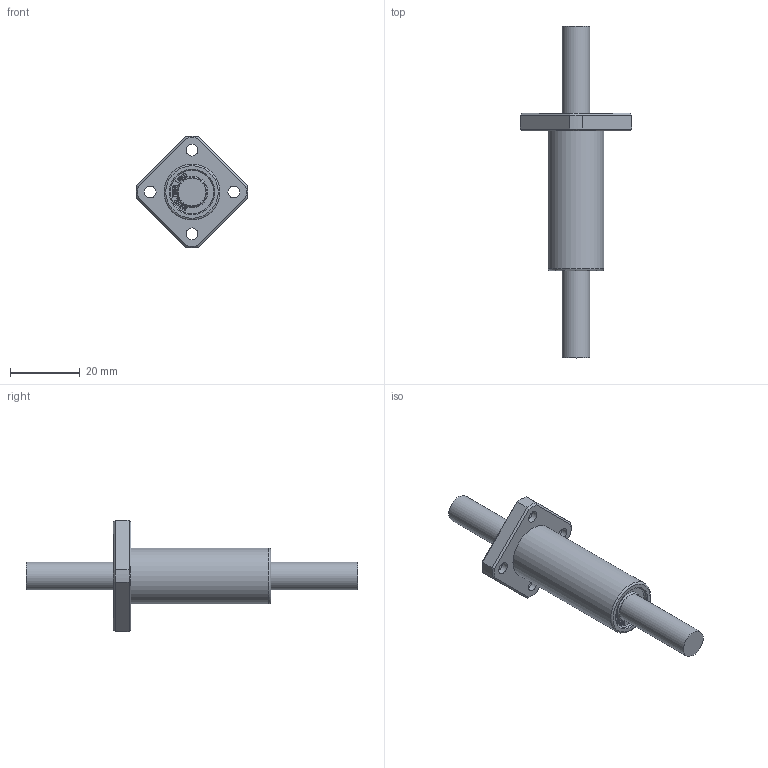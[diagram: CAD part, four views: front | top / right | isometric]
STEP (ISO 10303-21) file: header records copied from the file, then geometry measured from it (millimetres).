
FILE_DESCRIPTION(/* description */ (''),/* implementation_level */ '2;1');
FILE_NAME(/* name */ 'W:\(01) 2024년 홈페이지 CAD파일 최신화\LMEK_L\IPT\LMEK08LUU.stp',/* time_stamp */ '2025-01-25T11:02:52+09:00',/* author */ ('서우현'),/* organization */ (''),/* preprocessor_version */ 'ST-DEVELOPER v17.2',/* originating_system */ 'Autodesk Inventor 2019',/* authorisation */ '');
FILE_SCHEMA (('AUTOMOTIVE_DESIGN { 1 0 10303 214 3 1 1 }'));
Length unit declared in the file: millimetre
Products named in the file (1): LM5
Bounding box: 31.98 x 95 x 31.98 mm (x, y, z)
Volume: 12925.8 mm3; surface area: 5360.2 mm2
Topology: 1 solids, 1 shells, 844 faces, 2366 edges, 1580 vertices
Faces by surface type: bspline 580, plane 232, cylinder 18, cone 12, torus 2
Full cylindrical faces by diameter (mm): 3.4 x4, 6.5 x4, 8 x2, 12.4 x2, 16 x2
Entity records: 28957 total; most frequent: CARTESIAN_POINT 10727, ORIENTED_EDGE 4732, EDGE_CURVE 2366, DIRECTION 1802, VERTEX_POINT 1580, B_SPLINE_CURVE_WITH_KNOTS 1160, LINE 1108, VECTOR 1108
